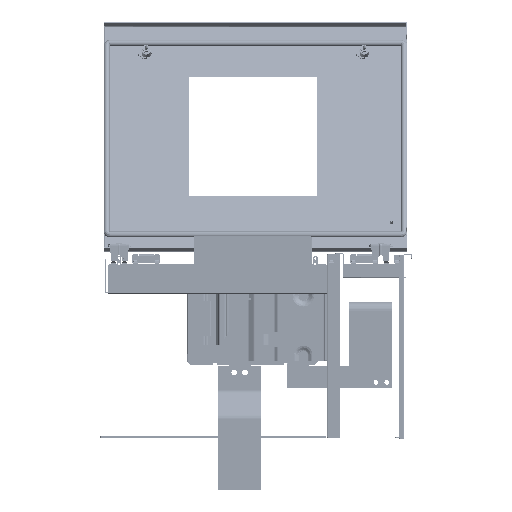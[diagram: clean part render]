
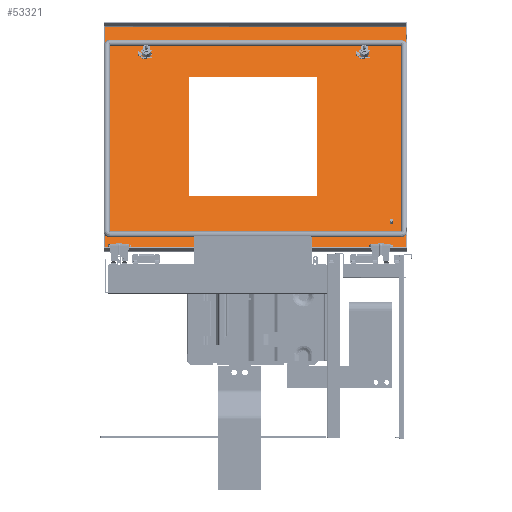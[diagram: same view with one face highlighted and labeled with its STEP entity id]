
A CAD part, left-side view. The second image highlights one B-rep face of the part: STEP entity #53321.
In plain terms, the highlighted planar face has unit normal (-0.871, 0, 0.491) as drawn and (0, 0, -1) by its records, which use the part's own axes.
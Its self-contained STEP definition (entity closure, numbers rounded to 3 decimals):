
#50321=CARTESIAN_POINT(' ',(2.3,2.3,-1.5));
#50322=VERTEX_POINT(' ',#50321);
#50336=CARTESIAN_POINT(' ',(2.3,2.3,-1.5));
#50341=DIRECTION(' ',(1.,0.,0.));
#50346=VECTOR(' ',#50341,1.);
#50351=LINE('',#50336,#50346);
#50356=CARTESIAN_POINT(' ',(591.7,2.3,-1.5));
#50357=VERTEX_POINT(' ',#50356);
#50361=EDGE_CURVE(' ',#50322,#50357,#50351,.T.);
#52301=DIRECTION(' ',(0.,0.,-1.));
#52306=CARTESIAN_POINT(' ',(591.7,2.3,-1.5));
#52311=DIRECTION(' ',(-1.,0.,0.));
#52316=AXIS2_PLACEMENT_3D(' ',#52306,#52301,#52311);
#52321=PLANE('NONE',#52316);
#52326=ORIENTED_EDGE(' ',*,*,#50361,.F.);
#52331=CARTESIAN_POINT(' ',(2.3,692.7,-1.5));
#52336=DIRECTION(' ',(0.,-1.,0.));
#52341=VECTOR(' ',#52336,1.);
#52346=LINE('',#52331,#52341);
#52351=CARTESIAN_POINT(' ',(2.3,692.7,-1.5));
#52352=VERTEX_POINT(' ',#52351);
#52356=EDGE_CURVE(' ',#52352,#50322,#52346,.T.);
#52361=ORIENTED_EDGE(' ',*,*,#52356,.F.);
#52366=CARTESIAN_POINT(' ',(591.7,692.7,-1.5));
#52371=DIRECTION(' ',(-1.,0.,0.));
#52376=VECTOR(' ',#52371,1.);
#52381=LINE('',#52366,#52376);
#52386=CARTESIAN_POINT(' ',(591.7,692.7,-1.5));
#52387=VERTEX_POINT(' ',#52386);
#52391=EDGE_CURVE(' ',#52387,#52352,#52381,.T.);
#52396=ORIENTED_EDGE(' ',*,*,#52391,.F.);
#52401=CARTESIAN_POINT(' ',(591.7,2.3,-1.5));
#52406=DIRECTION(' ',(0.,1.,0.));
#52411=VECTOR(' ',#52406,1.);
#52416=LINE('',#52401,#52411);
#52421=EDGE_CURVE(' ',#50357,#52387,#52416,.T.);
#52426=ORIENTED_EDGE(' ',*,*,#52421,.F.);
#52431=EDGE_LOOP(' ',(#52326,#52361,#52396,#52426));
#52436=FACE_OUTER_BOUND(' ',#52431,.T.);
#52441=CARTESIAN_POINT(' ',(449.,207.,-1.5));
#52446=DIRECTION(' ',(0.,1.,0.));
#52451=VECTOR(' ',#52446,1.);
#52456=LINE('',#52441,#52451);
#52461=CARTESIAN_POINT(' ',(449.,207.,-1.5));
#52462=VERTEX_POINT(' ',#52461);
#52466=CARTESIAN_POINT(' ',(449.,500.,-1.5));
#52467=VERTEX_POINT(' ',#52466);
#52471=EDGE_CURVE(' ',#52462,#52467,#52456,.T.);
#52476=ORIENTED_EDGE(' ',*,*,#52471,.T.);
#52481=CARTESIAN_POINT(' ',(449.,500.,-1.5));
#52486=DIRECTION(' ',(-1.,0.,0.));
#52491=VECTOR(' ',#52486,1.);
#52496=LINE('',#52481,#52491);
#52501=CARTESIAN_POINT(' ',(134.,500.,-1.5));
#52502=VERTEX_POINT(' ',#52501);
#52506=EDGE_CURVE(' ',#52467,#52502,#52496,.T.);
#52511=ORIENTED_EDGE(' ',*,*,#52506,.T.);
#52516=CARTESIAN_POINT(' ',(134.,500.,-1.5));
#52521=DIRECTION(' ',(0.,-1.,0.));
#52526=VECTOR(' ',#52521,1.);
#52531=LINE('',#52516,#52526);
#52536=CARTESIAN_POINT(' ',(134.,207.,-1.5));
#52537=VERTEX_POINT(' ',#52536);
#52541=EDGE_CURVE(' ',#52502,#52537,#52531,.T.);
#52546=ORIENTED_EDGE(' ',*,*,#52541,.T.);
#52551=CARTESIAN_POINT(' ',(134.,207.,-1.5));
#52556=DIRECTION(' ',(1.,0.,0.));
#52561=VECTOR(' ',#52556,1.);
#52566=LINE('',#52551,#52561);
#52571=EDGE_CURVE(' ',#52537,#52462,#52566,.T.);
#52576=ORIENTED_EDGE(' ',*,*,#52571,.T.);
#52581=EDGE_LOOP(' ',(#52476,#52511,#52546,#52576));
#52586=FACE_BOUND(' ',#52581,.T.);
#52591=CARTESIAN_POINT(' ',(64.5,599.6,-1.5));
#52596=DIRECTION(' ',(-1.,0.,0.));
#52601=VECTOR(' ',#52596,1.);
#52606=LINE('',#52591,#52601);
#52611=CARTESIAN_POINT(' ',(64.5,599.6,-1.5));
#52612=VERTEX_POINT(' ',#52611);
#52616=CARTESIAN_POINT(' ',(62.6,599.6,-1.5));
#52617=VERTEX_POINT(' ',#52616);
#52621=EDGE_CURVE(' ',#52612,#52617,#52606,.T.);
#52626=ORIENTED_EDGE(' ',*,*,#52621,.T.);
#52631=CARTESIAN_POINT(' ',(62.6,599.6,-1.5));
#52636=DIRECTION(' ',(0.,-1.,0.));
#52641=VECTOR(' ',#52636,1.);
#52646=LINE('',#52631,#52641);
#52651=CARTESIAN_POINT(' ',(62.6,595.4,-1.5));
#52652=VERTEX_POINT(' ',#52651);
#52656=EDGE_CURVE(' ',#52617,#52652,#52646,.T.);
#52661=ORIENTED_EDGE(' ',*,*,#52656,.T.);
#52666=CARTESIAN_POINT(' ',(62.6,595.4,-1.5));
#52671=DIRECTION(' ',(1.,0.,0.));
#52676=VECTOR(' ',#52671,1.);
#52681=LINE('',#52666,#52676);
#52686=CARTESIAN_POINT(' ',(64.5,595.4,-1.5));
#52687=VERTEX_POINT(' ',#52686);
#52691=EDGE_CURVE(' ',#52652,#52687,#52681,.T.);
#52696=ORIENTED_EDGE(' ',*,*,#52691,.T.);
#52701=CARTESIAN_POINT(' ',(64.5,595.4,-1.5));
#52706=DIRECTION(' ',(0.,-1.,0.));
#52711=VECTOR(' ',#52706,1.);
#52716=LINE('',#52701,#52711);
#52721=CARTESIAN_POINT(' ',(64.5,595.25,-1.5));
#52722=VERTEX_POINT(' ',#52721);
#52726=EDGE_CURVE(' ',#52687,#52722,#52716,.T.);
#52731=ORIENTED_EDGE(' ',*,*,#52726,.T.);
#52736=CARTESIAN_POINT(' ',(74.5,597.5,-1.5));
#52741=DIRECTION(' ',(0.,0.,1.));
#52746=DIRECTION(' ',(-0.976,-0.22,0.));
#52751=AXIS2_PLACEMENT_3D(' ',#52736,#52741,#52746);
#52756=CIRCLE('',#52751,10.25);
#52761=CARTESIAN_POINT(' ',(72.4,587.467,-1.5));
#52762=VERTEX_POINT(' ',#52761);
#52766=EDGE_CURVE(' ',#52722,#52762,#52756,.T.);
#52771=ORIENTED_EDGE(' ',*,*,#52766,.T.);
#52776=CARTESIAN_POINT(' ',(72.4,587.467,-1.5));
#52781=DIRECTION(' ',(0.,-1.,0.));
#52786=VECTOR(' ',#52781,1.);
#52791=LINE('',#52776,#52786);
#52796=CARTESIAN_POINT(' ',(72.4,585.6,-1.5));
#52797=VERTEX_POINT(' ',#52796);
#52801=EDGE_CURVE(' ',#52762,#52797,#52791,.T.);
#52806=ORIENTED_EDGE(' ',*,*,#52801,.T.);
#52811=CARTESIAN_POINT(' ',(72.4,585.6,-1.5));
#52816=DIRECTION(' ',(1.,0.,0.));
#52821=VECTOR(' ',#52816,1.);
#52826=LINE('',#52811,#52821);
#52831=CARTESIAN_POINT(' ',(76.6,585.6,-1.5));
#52832=VERTEX_POINT(' ',#52831);
#52836=EDGE_CURVE(' ',#52797,#52832,#52826,.T.);
#52841=ORIENTED_EDGE(' ',*,*,#52836,.T.);
#52846=CARTESIAN_POINT(' ',(76.6,585.6,-1.5));
#52851=DIRECTION(' ',(0.,1.,0.));
#52856=VECTOR(' ',#52851,1.);
#52861=LINE('',#52846,#52856);
#52866=CARTESIAN_POINT(' ',(76.6,587.467,-1.5));
#52867=VERTEX_POINT(' ',#52866);
#52871=EDGE_CURVE(' ',#52832,#52867,#52861,.T.);
#52876=ORIENTED_EDGE(' ',*,*,#52871,.T.);
#52881=CARTESIAN_POINT(' ',(74.5,597.5,-1.5));
#52886=DIRECTION(' ',(0.,0.,1.));
#52891=DIRECTION(' ',(0.205,-0.979,0.));
#52896=AXIS2_PLACEMENT_3D(' ',#52881,#52886,#52891);
#52901=CIRCLE('',#52896,10.25);
#52906=CARTESIAN_POINT(' ',(84.5,595.25,-1.5));
#52907=VERTEX_POINT(' ',#52906);
#52911=EDGE_CURVE(' ',#52867,#52907,#52901,.T.);
#52916=ORIENTED_EDGE(' ',*,*,#52911,.T.);
#52921=CARTESIAN_POINT(' ',(84.5,595.25,-1.5));
#52926=DIRECTION(' ',(0.,1.,0.));
#52931=VECTOR(' ',#52926,1.);
#52936=LINE('',#52921,#52931);
#52941=CARTESIAN_POINT(' ',(84.5,595.4,-1.5));
#52942=VERTEX_POINT(' ',#52941);
#52946=EDGE_CURVE(' ',#52907,#52942,#52936,.T.);
#52951=ORIENTED_EDGE(' ',*,*,#52946,.T.);
#52956=CARTESIAN_POINT(' ',(84.5,595.4,-1.5));
#52961=DIRECTION(' ',(1.,0.,0.));
#52966=VECTOR(' ',#52961,1.);
#52971=LINE('',#52956,#52966);
#52976=CARTESIAN_POINT(' ',(86.4,595.4,-1.5));
#52977=VERTEX_POINT(' ',#52976);
#52981=EDGE_CURVE(' ',#52942,#52977,#52971,.T.);
#52986=ORIENTED_EDGE(' ',*,*,#52981,.T.);
#52991=CARTESIAN_POINT(' ',(86.4,595.4,-1.5));
#52996=DIRECTION(' ',(0.,1.,0.));
#53001=VECTOR(' ',#52996,1.);
#53006=LINE('',#52991,#53001);
#53011=CARTESIAN_POINT(' ',(86.4,599.6,-1.5));
#53012=VERTEX_POINT(' ',#53011);
#53016=EDGE_CURVE(' ',#52977,#53012,#53006,.T.);
#53021=ORIENTED_EDGE(' ',*,*,#53016,.T.);
#53026=CARTESIAN_POINT(' ',(86.4,599.6,-1.5));
#53031=DIRECTION(' ',(-1.,0.,0.));
#53036=VECTOR(' ',#53031,1.);
#53041=LINE('',#53026,#53036);
#53046=CARTESIAN_POINT(' ',(84.5,599.6,-1.5));
#53047=VERTEX_POINT(' ',#53046);
#53051=EDGE_CURVE(' ',#53012,#53047,#53041,.T.);
#53056=ORIENTED_EDGE(' ',*,*,#53051,.T.);
#53061=CARTESIAN_POINT(' ',(84.5,599.6,-1.5));
#53066=DIRECTION(' ',(0.,1.,0.));
#53071=VECTOR(' ',#53066,1.);
#53076=LINE('',#53061,#53071);
#53081=CARTESIAN_POINT(' ',(84.5,599.75,-1.5));
#53082=VERTEX_POINT(' ',#53081);
#53086=EDGE_CURVE(' ',#53047,#53082,#53076,.T.);
#53091=ORIENTED_EDGE(' ',*,*,#53086,.T.);
#53096=CARTESIAN_POINT(' ',(74.5,597.5,-1.5));
#53101=DIRECTION(' ',(0.,0.,1.));
#53106=DIRECTION(' ',(0.976,0.22,0.));
#53111=AXIS2_PLACEMENT_3D(' ',#53096,#53101,#53106);
#53116=CIRCLE('',#53111,10.25);
#53121=CARTESIAN_POINT(' ',(76.6,607.533,-1.5));
#53122=VERTEX_POINT(' ',#53121);
#53126=EDGE_CURVE(' ',#53082,#53122,#53116,.T.);
#53131=ORIENTED_EDGE(' ',*,*,#53126,.T.);
#53136=CARTESIAN_POINT(' ',(76.6,607.533,-1.5));
#53141=DIRECTION(' ',(0.,1.,0.));
#53146=VECTOR(' ',#53141,1.);
#53151=LINE('',#53136,#53146);
#53156=CARTESIAN_POINT(' ',(76.6,609.4,-1.5));
#53157=VERTEX_POINT(' ',#53156);
#53161=EDGE_CURVE(' ',#53122,#53157,#53151,.T.);
#53166=ORIENTED_EDGE(' ',*,*,#53161,.T.);
#53171=CARTESIAN_POINT(' ',(76.6,609.4,-1.5));
#53176=DIRECTION(' ',(-1.,0.,0.));
#53181=VECTOR(' ',#53176,1.);
#53186=LINE('',#53171,#53181);
#53191=CARTESIAN_POINT(' ',(72.4,609.4,-1.5));
#53192=VERTEX_POINT(' ',#53191);
#53196=EDGE_CURVE(' ',#53157,#53192,#53186,.T.);
#53201=ORIENTED_EDGE(' ',*,*,#53196,.T.);
#53206=CARTESIAN_POINT(' ',(72.4,609.4,-1.5));
#53211=DIRECTION(' ',(0.,-1.,0.));
#53216=VECTOR(' ',#53211,1.);
#53221=LINE('',#53206,#53216);
#53226=CARTESIAN_POINT(' ',(72.4,607.533,-1.5));
#53227=VERTEX_POINT(' ',#53226);
#53231=EDGE_CURVE(' ',#53192,#53227,#53221,.T.);
#53236=ORIENTED_EDGE(' ',*,*,#53231,.T.);
#53241=CARTESIAN_POINT(' ',(74.5,597.5,-1.5));
#53246=DIRECTION(' ',(0.,0.,1.));
#53251=DIRECTION(' ',(-0.205,0.979,0.));
#53256=AXIS2_PLACEMENT_3D(' ',#53241,#53246,#53251);
#53261=CIRCLE('',#53256,10.25);
#53266=CARTESIAN_POINT(' ',(64.5,599.75,-1.5));
#53267=VERTEX_POINT(' ',#53266);
#53271=EDGE_CURVE(' ',#53227,#53267,#53261,.T.);
#53276=ORIENTED_EDGE(' ',*,*,#53271,.T.);
#53281=CARTESIAN_POINT(' ',(64.5,599.75,-1.5));
#53286=DIRECTION(' ',(0.,-1.,0.));
#53291=VECTOR(' ',#53286,1.);
#53296=LINE('',#53281,#53291);
#53301=EDGE_CURVE(' ',#53267,#52612,#53296,.T.);
#53306=ORIENTED_EDGE(' ',*,*,#53301,.T.);
#53311=EDGE_LOOP(' ',(#52626,#52661,#52696,#52731,#52771,#52806,#52841,#52876,#52916,#52951,#52986,#53021,#53056,#53091,#53131,#53166,#53201,#53236,#53276,#53306));
#53316=FACE_BOUND(' ',#53311,.T.);
#53321=ADVANCED_FACE('NONE',(#52436,#52586,#53316),#52321,.T.);
